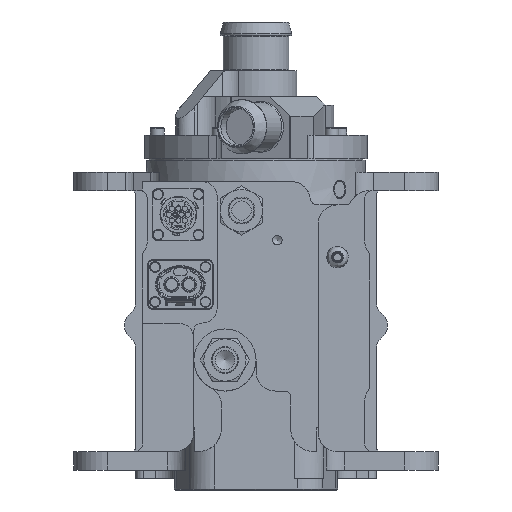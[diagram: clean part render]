
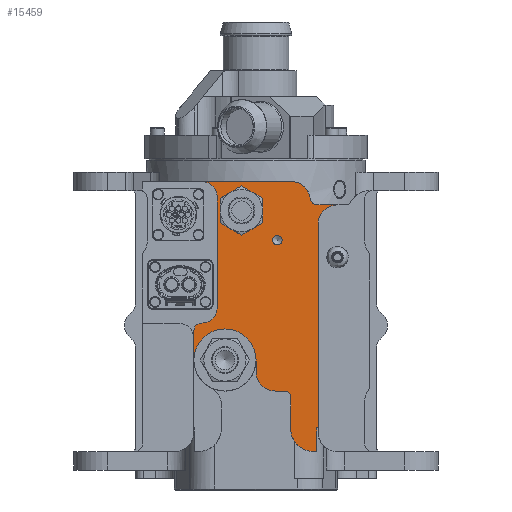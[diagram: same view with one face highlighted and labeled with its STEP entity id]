
A CAD part, front view. The second image highlights one B-rep face of the part: STEP entity #15459.
In plain terms, the highlighted planar face has unit normal (0, -1, 0).
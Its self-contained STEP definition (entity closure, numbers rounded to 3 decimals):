
#262=FACE_BOUND('',#3424,.T.);
#263=FACE_BOUND('',#3425,.T.);
#670=PLANE('',#16943);
#2499=FACE_OUTER_BOUND('',#3423,.T.);
#3423=EDGE_LOOP('',(#13965,#13966,#13967,#13968,#13969,#13970,#13971,#13972,
#13973,#13974,#13975,#13976,#13977,#13978,#13979,#13980,#13981,#13982,#13983,
#13984,#13985,#13986));
#3424=EDGE_LOOP('',(#13987));
#3425=EDGE_LOOP('',(#13988));
#4618=LINE('',#26813,#5926);
#4642=LINE('',#26905,#5950);
#4644=LINE('',#26911,#5952);
#4650=LINE('',#26928,#5958);
#4659=LINE('',#26993,#5967);
#4662=LINE('',#27001,#5970);
#4664=LINE('',#27007,#5972);
#4677=LINE('',#27129,#5985);
#4681=LINE('',#27136,#5989);
#4684=LINE('',#27142,#5992);
#4685=LINE('',#27145,#5993);
#4687=LINE('',#27150,#5995);
#5926=VECTOR('',#20629,10.);
#5950=VECTOR('',#20717,10.);
#5952=VECTOR('',#20725,10.);
#5958=VECTOR('',#20741,10.);
#5967=VECTOR('',#20780,10.);
#5970=VECTOR('',#20789,10.);
#5972=VECTOR('',#20797,10.);
#5985=VECTOR('',#20848,10.);
#5989=VECTOR('',#20856,10.);
#5992=VECTOR('',#20863,10.);
#5993=VECTOR('',#20868,10.);
#5995=VECTOR('',#20874,10.);
#6386=CIRCLE('',#15968,10.95);
#6740=CIRCLE('',#16794,16.);
#6742=CIRCLE('',#16797,8.);
#6743=CIRCLE('',#16799,8.);
#6775=CIRCLE('',#16864,10.);
#6778=CIRCLE('',#16869,4.);
#6779=CIRCLE('',#16871,10.);
#6784=CIRCLE('',#16881,12.);
#6785=CIRCLE('',#16884,10.);
#6787=CIRCLE('',#16890,4.);
#6789=CIRCLE('',#16893,2.459);
#6798=CIRCLE('',#16917,3.);
#7176=VERTEX_POINT('',#23175);
#7997=VERTEX_POINT('',#26715);
#7999=VERTEX_POINT('',#26720);
#8002=VERTEX_POINT('',#26727);
#8003=VERTEX_POINT('',#26729);
#8004=VERTEX_POINT('',#26733);
#8005=VERTEX_POINT('',#26734);
#8029=VERTEX_POINT('',#26806);
#8032=VERTEX_POINT('',#26811);
#8054=VERTEX_POINT('',#26914);
#8055=VERTEX_POINT('',#26915);
#8059=VERTEX_POINT('',#26926);
#8061=VERTEX_POINT('',#26941);
#8066=VERTEX_POINT('',#26985);
#8067=VERTEX_POINT('',#26987);
#8068=VERTEX_POINT('',#26991);
#8069=VERTEX_POINT('',#26995);
#8070=VERTEX_POINT('',#26996);
#8071=VERTEX_POINT('',#27005);
#8072=VERTEX_POINT('',#27009);
#8074=VERTEX_POINT('',#27015);
#8084=VERTEX_POINT('',#27124);
#8087=VERTEX_POINT('',#27141);
#8088=VERTEX_POINT('',#27148);
#8710=EDGE_CURVE('',#7176,#7176,#6386,.T.);
#9925=EDGE_CURVE('',#7997,#7999,#6740,.T.);
#9928=EDGE_CURVE('',#8002,#8003,#6742,.T.);
#9930=EDGE_CURVE('',#8004,#8005,#6743,.T.);
#9969=EDGE_CURVE('',#8032,#8029,#4618,.T.);
#10009=EDGE_CURVE('',#8003,#8032,#4642,.T.);
#10013=EDGE_CURVE('',#8005,#8002,#4644,.T.);
#10015=EDGE_CURVE('',#8054,#8055,#6775,.T.);
#10022=EDGE_CURVE('',#8054,#8059,#4650,.T.);
#10025=EDGE_CURVE('',#8059,#8061,#6778,.T.);
#10027=EDGE_CURVE('',#8061,#8029,#6779,.T.);
#10038=EDGE_CURVE('',#8067,#8066,#6784,.T.);
#10041=EDGE_CURVE('',#8068,#8067,#4659,.T.);
#10042=EDGE_CURVE('',#8069,#8070,#6785,.T.);
#10045=EDGE_CURVE('',#7999,#8069,#4662,.T.);
#10048=EDGE_CURVE('',#8066,#8071,#4664,.T.);
#10049=EDGE_CURVE('',#8072,#8004,#6787,.T.);
#10052=EDGE_CURVE('',#8074,#8074,#6789,.T.);
#10073=EDGE_CURVE('',#8055,#8084,#4677,.T.);
#10077=EDGE_CURVE('',#7997,#8072,#4681,.T.);
#10080=EDGE_CURVE('',#8071,#8087,#4684,.T.);
#10082=EDGE_CURVE('',#8087,#8084,#4685,.T.);
#10084=EDGE_CURVE('',#8070,#8088,#4687,.T.);
#10085=EDGE_CURVE('',#8068,#8088,#6798,.F.);
#13965=ORIENTED_EDGE('',*,*,#10080,.T.);
#13966=ORIENTED_EDGE('',*,*,#10082,.T.);
#13967=ORIENTED_EDGE('',*,*,#10073,.F.);
#13968=ORIENTED_EDGE('',*,*,#10015,.F.);
#13969=ORIENTED_EDGE('',*,*,#10022,.T.);
#13970=ORIENTED_EDGE('',*,*,#10025,.T.);
#13971=ORIENTED_EDGE('',*,*,#10027,.T.);
#13972=ORIENTED_EDGE('',*,*,#9969,.F.);
#13973=ORIENTED_EDGE('',*,*,#10009,.F.);
#13974=ORIENTED_EDGE('',*,*,#9928,.F.);
#13975=ORIENTED_EDGE('',*,*,#10013,.F.);
#13976=ORIENTED_EDGE('',*,*,#9930,.F.);
#13977=ORIENTED_EDGE('',*,*,#10049,.F.);
#13978=ORIENTED_EDGE('',*,*,#10077,.F.);
#13979=ORIENTED_EDGE('',*,*,#9925,.T.);
#13980=ORIENTED_EDGE('',*,*,#10045,.T.);
#13981=ORIENTED_EDGE('',*,*,#10042,.T.);
#13982=ORIENTED_EDGE('',*,*,#10084,.T.);
#13983=ORIENTED_EDGE('',*,*,#10085,.F.);
#13984=ORIENTED_EDGE('',*,*,#10041,.T.);
#13985=ORIENTED_EDGE('',*,*,#10038,.T.);
#13986=ORIENTED_EDGE('',*,*,#10048,.T.);
#13987=ORIENTED_EDGE('',*,*,#8710,.T.);
#13988=ORIENTED_EDGE('',*,*,#10052,.T.);
#15459=ADVANCED_FACE('',(#2499,#262,#263),#670,.F.);
#15968=AXIS2_PLACEMENT_3D('',#23176,#18081,#18082);
#16794=AXIS2_PLACEMENT_3D('',#26722,#20537,#20538);
#16797=AXIS2_PLACEMENT_3D('',#26730,#20544,#20545);
#16799=AXIS2_PLACEMENT_3D('',#26735,#20549,#20550);
#16864=AXIS2_PLACEMENT_3D('',#26916,#20729,#20730);
#16869=AXIS2_PLACEMENT_3D('',#26943,#20745,#20746);
#16871=AXIS2_PLACEMENT_3D('',#26955,#20749,#20750);
#16881=AXIS2_PLACEMENT_3D('',#26988,#20774,#20775);
#16884=AXIS2_PLACEMENT_3D('',#26997,#20783,#20784);
#16890=AXIS2_PLACEMENT_3D('',#27010,#20800,#20801);
#16893=AXIS2_PLACEMENT_3D('',#27016,#20807,#20808);
#16917=AXIS2_PLACEMENT_3D('',#27152,#20877,#20878);
#16943=AXIS2_PLACEMENT_3D('',#27207,#20944,#20945);
#18081=DIRECTION('center_axis',(0.,1.,0.));
#18082=DIRECTION('ref_axis',(-0.866,0.,0.5));
#20537=DIRECTION('center_axis',(0.,1.,0.));
#20538=DIRECTION('ref_axis',(-1.,0.,0.));
#20544=DIRECTION('center_axis',(0.,-1.,0.));
#20545=DIRECTION('ref_axis',(0.707,0.,0.707));
#20549=DIRECTION('center_axis',(0.,-1.,0.));
#20550=DIRECTION('ref_axis',(0.707,0.,-0.707));
#20629=DIRECTION('',(0.,0.,-1.));
#20717=DIRECTION('',(1.,0.,0.));
#20725=DIRECTION('',(0.,0.,1.));
#20729=DIRECTION('center_axis',(0.,-1.,0.));
#20730=DIRECTION('ref_axis',(-0.707,0.,0.707));
#20741=DIRECTION('',(-1.,0.,0.));
#20745=DIRECTION('center_axis',(0.,1.,0.));
#20746=DIRECTION('ref_axis',(0.991,0.,0.137));
#20749=DIRECTION('center_axis',(0.,-1.,0.));
#20750=DIRECTION('ref_axis',(0.991,0.,0.137));
#20774=DIRECTION('center_axis',(0.,-1.,0.));
#20775=DIRECTION('ref_axis',(-1.,0.,0.));
#20780=DIRECTION('',(0.,0.,-1.));
#20783=DIRECTION('center_axis',(0.,-1.,0.));
#20784=DIRECTION('ref_axis',(-1.,0.,0.));
#20789=DIRECTION('',(0.,0.,-1.));
#20797=DIRECTION('',(1.,0.,0.));
#20800=DIRECTION('center_axis',(0.,1.,0.));
#20801=DIRECTION('ref_axis',(-0.707,0.,0.707));
#20807=DIRECTION('center_axis',(0.,1.,0.));
#20808=DIRECTION('ref_axis',(1.,0.,0.));
#20848=DIRECTION('',(0.,0.,-1.));
#20856=DIRECTION('',(0.,0.,1.));
#20863=DIRECTION('',(0.,0.,1.));
#20868=DIRECTION('',(1.,0.,0.));
#20874=DIRECTION('',(1.,0.,0.));
#20877=DIRECTION('center_axis',(0.,1.,0.));
#20878=DIRECTION('ref_axis',(0.707,0.,0.707));
#20944=DIRECTION('center_axis',(0.,1.,0.));
#20945=DIRECTION('ref_axis',(0.,0.,1.));
#23175=CARTESIAN_POINT('',(1.983,-33.5,-33.475));
#23176=CARTESIAN_POINT('Origin',(-7.5,-33.5,-28.));
#26715=CARTESIAN_POINT('',(-32.,-33.5,-105.));
#26720=CARTESIAN_POINT('',(0.,-33.5,-105.));
#26722=CARTESIAN_POINT('Origin',(-16.,-33.5,-105.));
#26727=CARTESIAN_POINT('',(-20.,-33.5,-21.));
#26729=CARTESIAN_POINT('',(-28.,-33.5,-13.));
#26730=CARTESIAN_POINT('Origin',(-28.,-33.5,-21.));
#26733=CARTESIAN_POINT('',(-28.,-33.5,-86.));
#26734=CARTESIAN_POINT('',(-20.,-33.5,-78.));
#26735=CARTESIAN_POINT('Origin',(-28.,-33.5,-78.));
#26806=CARTESIAN_POINT('',(20.,-33.5,-13.202));
#26811=CARTESIAN_POINT('',(20.,-33.5,-13.));
#26813=CARTESIAN_POINT('',(20.,-33.5,-58.));
#26905=CARTESIAN_POINT('',(20.,-33.5,-13.));
#26911=CARTESIAN_POINT('',(-20.,-33.5,-25.5));
#26914=CARTESIAN_POINT('',(42.,-33.5,-25.085));
#26915=CARTESIAN_POINT('',(32.,-33.5,-35.085));
#26916=CARTESIAN_POINT('Origin',(42.,-33.5,-35.085));
#26926=CARTESIAN_POINT('',(31.868,-33.5,-25.085));
#26928=CARTESIAN_POINT('',(53.,-33.5,-25.085));
#26941=CARTESIAN_POINT('',(27.906,-33.5,-21.632));
#26943=CARTESIAN_POINT('Origin',(31.868,-33.5,-21.085));
#26955=CARTESIAN_POINT('Origin',(18.,-33.5,-23.));
#26985=CARTESIAN_POINT('',(29.8,-33.5,-152.25));
#26987=CARTESIAN_POINT('',(17.8,-33.5,-140.25));
#26988=CARTESIAN_POINT('Origin',(29.8,-33.5,-140.25));
#26991=CARTESIAN_POINT('',(17.8,-33.5,-124.));
#26993=CARTESIAN_POINT('',(17.8,-33.5,-120.688));
#26995=CARTESIAN_POINT('',(0.,-33.5,-111.));
#26996=CARTESIAN_POINT('',(10.,-33.5,-121.));
#26997=CARTESIAN_POINT('Origin',(10.,-33.5,-111.));
#27001=CARTESIAN_POINT('',(0.,-33.5,-106.063));
#27005=CARTESIAN_POINT('',(31.416,-33.5,-152.25));
#27007=CARTESIAN_POINT('',(22.5,-33.5,-152.25));
#27009=CARTESIAN_POINT('',(-32.,-33.5,-90.));
#27010=CARTESIAN_POINT('Origin',(-28.,-33.5,-90.));
#27015=CARTESIAN_POINT('',(8.542,-33.5,-43.25));
#27016=CARTESIAN_POINT('Origin',(11.,-33.5,-43.25));
#27124=CARTESIAN_POINT('',(32.,-33.5,-140.));
#27129=CARTESIAN_POINT('',(32.,-33.5,-134.563));
#27136=CARTESIAN_POINT('',(-32.,-33.5,-134.563));
#27141=CARTESIAN_POINT('',(31.416,-33.5,-140.));
#27142=CARTESIAN_POINT('',(31.416,-33.5,-166.));
#27145=CARTESIAN_POINT('',(13.657,-33.5,-140.));
#27148=CARTESIAN_POINT('',(14.8,-33.5,-121.));
#27150=CARTESIAN_POINT('',(8.9,-33.5,-121.));
#27152=CARTESIAN_POINT('Origin',(14.8,-33.5,-124.));
#27207=CARTESIAN_POINT('Origin',(0.,-33.5,-35.5));
